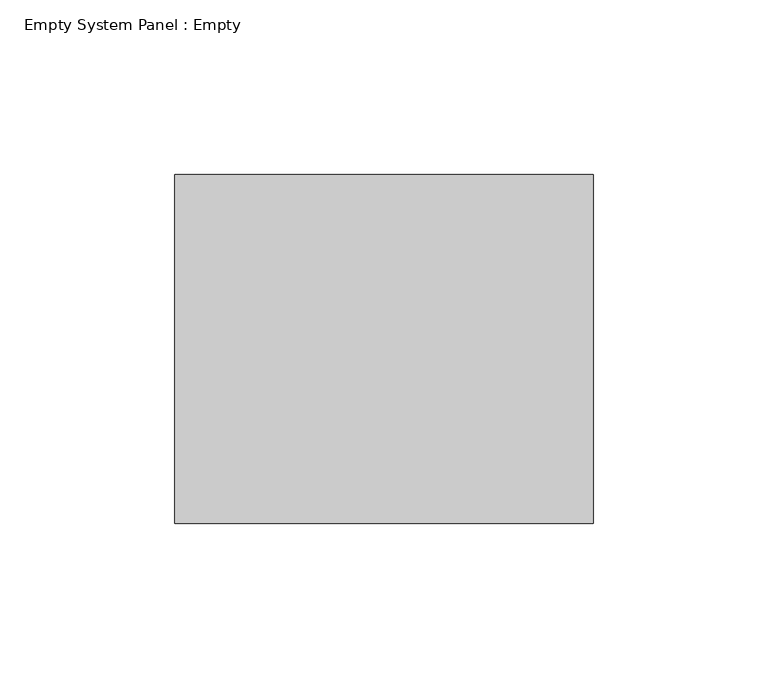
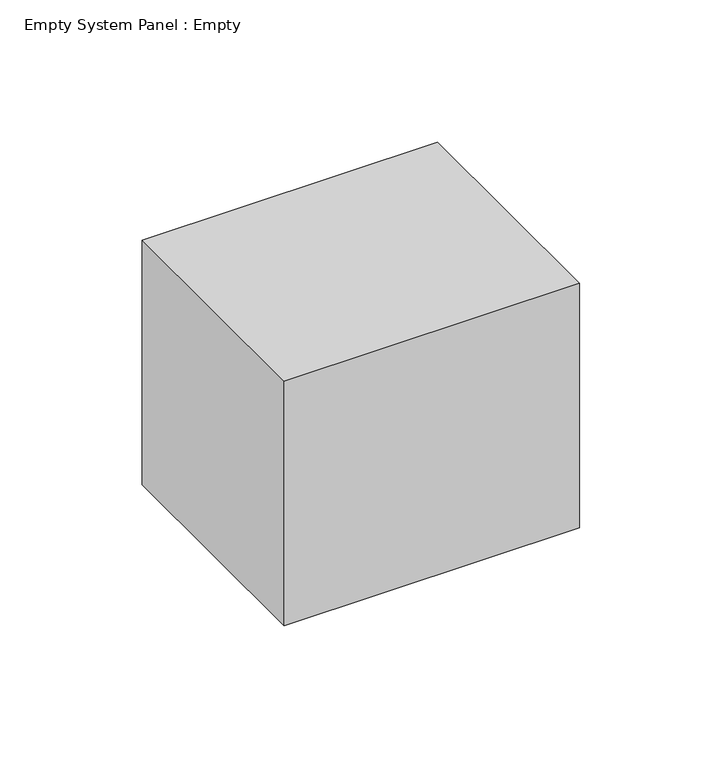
"""IFC4 building model written with IfcOpenShell, lengths in millimetres: plate geometry, Empty System Panel : Empty."""

from ifc_helpers import new_model, si_unit, origin, origin_with_axes, place, context, project, spatial, polyline, outline, extrude, source, transform, mapped, element, save


def empty_system_panel_empty_fe50b430(model_context):
    return source(origin(), model_context, "Body", "SweptSolid", [
        extrude(outline(polyline([(60.0, 50.0), (-60.0, 50.0), (-60.0, 150.0), (60.0, 150.0), (60.0, 50.0)])), origin_with_axes(), (0.0, 0.0, 1.0), 105.0),
    ])


if __name__ == "__main__":
    model = new_model("IFC4")
    model_context = context("Model", 3, world=origin())
    ifc_project = project(units=[si_unit("LENGTHUNIT", "METRE", prefix="MILLI")], contexts=[model_context])
    site = spatial("IfcSite", under=ifc_project)
    building = spatial("IfcBuilding", under=site)
    placement = place(None, origin())
    empty_system_panel_empty_shape = empty_system_panel_empty_fe50b430(model_context)
    element("IfcPlate", 1, ObjectType="Empty System Panel : Empty", at=placement, inside=building, context=model_context, shape_type="MappedRepresentation", body=[
        mapped(empty_system_panel_empty_shape, transform((0.0, 0.0, 0.0), x_axis=(1.0, 0.0, 0.0), y_axis=(0.0, 1.0, 0.0), z_axis=(0.0, 0.0, 1.0))),
    ])
    save(model, "model.ifc")
